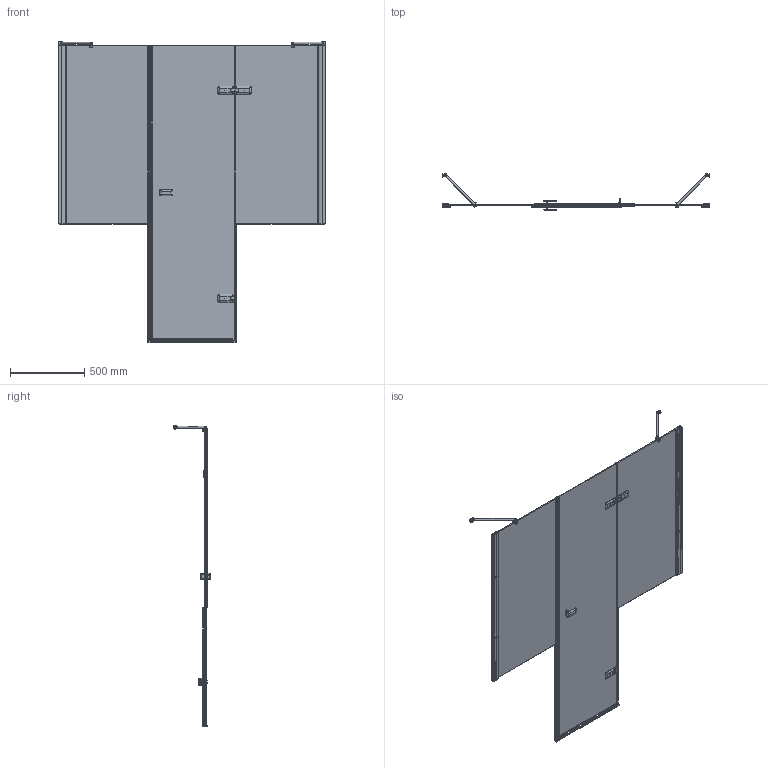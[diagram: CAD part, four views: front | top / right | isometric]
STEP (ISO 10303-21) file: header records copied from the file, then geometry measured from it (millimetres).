
FILE_DESCRIPTION(/* description */ ('Стенка передняя'),/* implementation_level */ '2;1');
FILE_NAME(/* name */ 'D:\Работа\Сергей\Душевые кабинки\! Работа\! 31\TREND DOOR GK-863-50PTWO\TREND DOOR GK-863-50PTWO правая модель\TREND DOOR GK-863-50PTWO ПРАВАЯ (3D для рендера).stp',/* time_stamp */ '2019-05-09T08:13:54+03:00',/* author */ ('User'),/* organization */ (''),/* preprocessor_version */ 'ST-DEVELOPER v15.2',/* originating_system */ 'Autodesk Inventor 2014',/* authorisation */ '');
FILE_SCHEMA (('CONFIG_CONTROL_DESIGN'));
Length unit declared in the file: millimetre
Products named in the file (69): Стекло.02 (P-5) TR; Стекло.02 (P) TR; Стекло.03 (0) TR; CH26-1 P2; CH26-1 P3; CH26-1 P4; CH26-1 P5; CH26-1 P6; CH26-0 P13; CH26-0 P14; CH26-0 P15; CH26-0 P11; CH26-0 P12; CH27-0 P1; CH27-0 P3; CH27-0-P2; CH27-1_1; M180-6; Магнит_180; М180-6; UP600M6.02; PR-10-SLK; 07-003; CH20-004; CH21-001; CH21-002; CH21-003; ISO 4026 - M5 x 5ISO; 113; UP603М8.03; STB-12-3-001; STB-3 P2; STB-3 P3; STB-3 P6; STB-3 P7; STB-3 P8; STB-3 P5; ITL STB P10; ITL STB P9; ITL STB P8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
Bounding box: 1800 x 249.9 x 2031.5 mm (x, y, z)
Volume: 20505080.8 mm3; surface area: 7500238.8 mm2
Topology: 131 solids, 131 shells, 2398 faces, 6038 edges, 3912 vertices
Faces by surface type: plane 1398, cylinder 693, cone 188, bspline 69, torus 39, sphere 11
Full cylindrical faces by diameter (mm): 1.5 x6, 2.459 x2, 3 x4, 3.242 x6, 4 x19, 4.1 x1, 4.134 x6, 4.5 x3, 4.917 x13, 5 x8, 5.2 x2, 5.4 x2, 5.54 x2, 6 x27, 6.5 x6, 6.647 x2, 7.2 x4, 8 x12, 8.2 x4, 8.5 x2, 9 x8, 10 x9, 11 x5, 11.34 x10, 12 x20, 12.5 x2, 13 x11, 15 x2, 16 x3, 16.5 x2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
Entity records: 48835 total; most frequent: CARTESIAN_POINT 10631, DIRECTION 7863, ORIENTED_EDGE 7350, EDGE_CURVE 3675, AXIS2_PLACEMENT_3D 2714, VERTEX_POINT 2500, LINE 2435, VECTOR 2435
